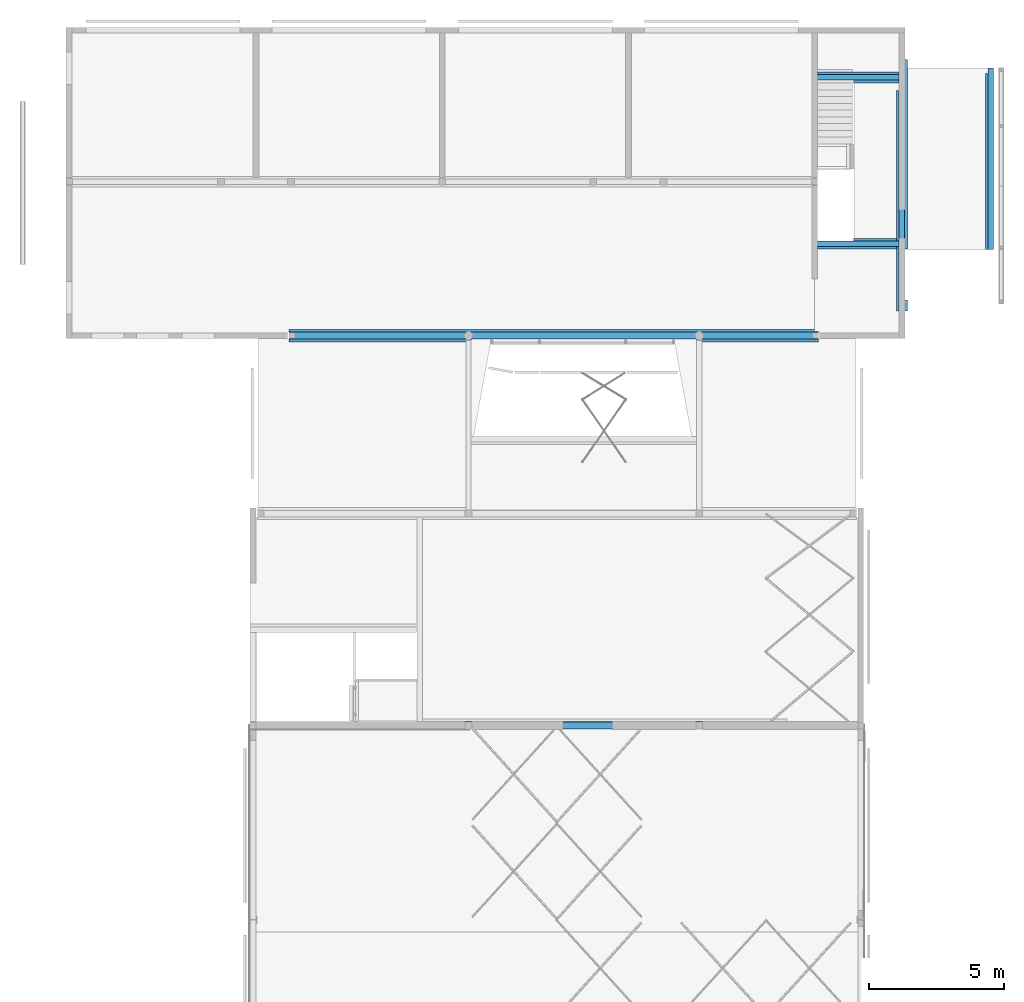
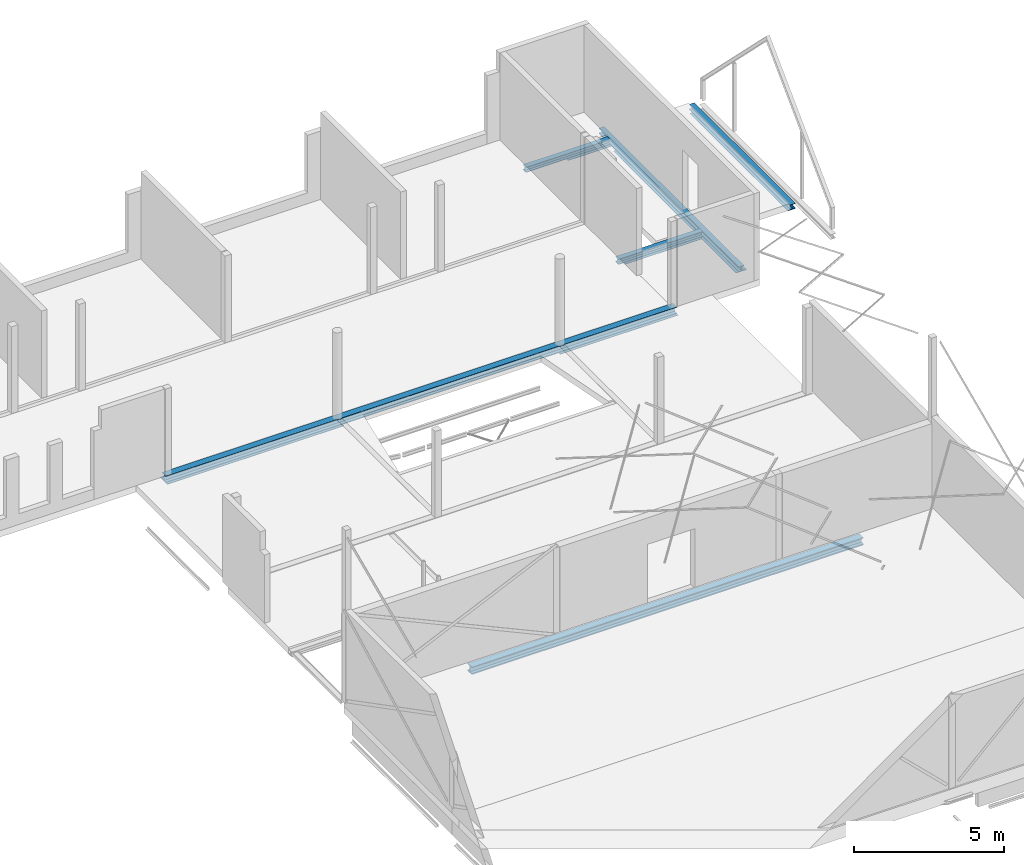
# One storey, part 12 of 14: 6 beams.
"""IFC2X3 building model written with IfcOpenShell, lengths in millimetres."""

from ifc_helpers import new_model, entity, si_unit, converted_unit, derived_unit, direction, frame, origin, place, context, subcontext, project, spatial, faceted_brep, source, transform, mapped, material, type_object, type_shapes, element, save


model = new_model("IFC2X3")

# Units and contexts
model_context = context("Model", 3, precision=0.01, world=origin(), true_north=direction((6.123031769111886e-17, 1.0)))
body_context = subcontext(model_context, "Body", "Model", "MODEL_VIEW")
ifc_project = project(units=[si_unit("LENGTHUNIT", "METRE", prefix="MILLI"), si_unit("AREAUNIT", "SQUARE_METRE", prefix="MILLI"), si_unit("VOLUMEUNIT", "CUBIC_METRE"), converted_unit("PLANEANGLEUNIT", "DEGREE", entity("IfcPlaneAngleMeasure", 0.017453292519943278), si_unit("PLANEANGLEUNIT", "RADIAN"), dimensions=[0, 0, 0, 0, 0, 0, 0]), si_unit("MASSUNIT", "GRAM", prefix="KILO"), derived_unit("MASSDENSITYUNIT", [(si_unit("MASSUNIT", "GRAM", prefix="KILO"), 1), (si_unit("LENGTHUNIT", "METRE"), -3)]), derived_unit("IONCONCENTRATIONUNIT", [(si_unit("MASSUNIT", "GRAM", prefix="KILO"), 1), (si_unit("LENGTHUNIT", "METRE"), -3)]), derived_unit("MOMENTOFINERTIAUNIT", [(si_unit("LENGTHUNIT", "METRE"), 4)]), si_unit("TIMEUNIT", "SECOND"), si_unit("FREQUENCYUNIT", "HERTZ"), si_unit("THERMODYNAMICTEMPERATUREUNIT", "DEGREE_CELSIUS"), derived_unit("THERMALTRANSMITTANCEUNIT", [(si_unit("MASSUNIT", "GRAM", prefix="KILO"), 1), (si_unit("THERMODYNAMICTEMPERATUREUNIT", "KELVIN"), -1), (si_unit("TIMEUNIT", "SECOND"), -3)]), derived_unit("THERMALCONDUCTANCEUNIT", [(si_unit("MASSUNIT", "GRAM", prefix="KILO"), 1), (si_unit("THERMODYNAMICTEMPERATUREUNIT", "KELVIN"), -1), (si_unit("TIMEUNIT", "SECOND"), -3), (si_unit("LENGTHUNIT", "METRE"), 1)]), derived_unit("VOLUMETRICFLOWRATEUNIT", [(si_unit("LENGTHUNIT", "METRE", prefix="DECI"), 3), (si_unit("TIMEUNIT", "SECOND"), -1)]), derived_unit("MASSFLOWRATEUNIT", [(si_unit("MASSUNIT", "GRAM", prefix="KILO"), 1), (si_unit("TIMEUNIT", "SECOND"), -1)]), derived_unit("ROTATIONALFREQUENCYUNIT", [(si_unit("TIMEUNIT", "SECOND"), -1)]), si_unit("ELECTRICCURRENTUNIT", "AMPERE"), si_unit("ELECTRICVOLTAGEUNIT", "VOLT"), si_unit("POWERUNIT", "WATT"), si_unit("FORCEUNIT", "NEWTON", prefix="KILO"), si_unit("ILLUMINANCEUNIT", "LUX"), si_unit("LUMINOUSFLUXUNIT", "LUMEN"), si_unit("LUMINOUSINTENSITYUNIT", "CANDELA"), si_unit("ENERGYUNIT", "JOULE"), derived_unit("USERDEFINED", [(si_unit("MASSUNIT", "GRAM", prefix="KILO"), -1), (si_unit("LENGTHUNIT", "METRE"), -2), (si_unit("TIMEUNIT", "SECOND"), 3), (si_unit("LUMINOUSFLUXUNIT", "LUMEN"), 1)]), derived_unit("USERDEFINED", [(si_unit("MASSUNIT", "GRAM", prefix="KILO"), 1), (si_unit("TIMEUNIT", "SECOND"), -3), (si_unit("LENGTHUNIT", "METRE"), 3), (si_unit("ELECTRICCURRENTUNIT", "AMPERE"), -2)]), derived_unit("SOUNDPOWERUNIT", [(si_unit("MASSUNIT", "GRAM", prefix="KILO"), 1), (si_unit("TIMEUNIT", "SECOND"), -3), (si_unit("LENGTHUNIT", "METRE"), 2)]), derived_unit("SOUNDPRESSUREUNIT", [(si_unit("MASSUNIT", "GRAM", prefix="KILO"), 1), (si_unit("LENGTHUNIT", "METRE"), -1), (si_unit("TIMEUNIT", "SECOND"), -2)]), derived_unit("LINEARVELOCITYUNIT", [(si_unit("LENGTHUNIT", "METRE"), 1), (si_unit("TIMEUNIT", "SECOND"), -1)]), si_unit("PRESSUREUNIT", "PASCAL"), derived_unit("USERDEFINED", [(si_unit("MASSUNIT", "GRAM", prefix="KILO"), 1), (si_unit("LENGTHUNIT", "METRE"), -2), (si_unit("TIMEUNIT", "SECOND"), -2)]), derived_unit("LINEARFORCEUNIT", [(si_unit("MASSUNIT", "GRAM", prefix="KILO"), 1), (si_unit("TIMEUNIT", "SECOND"), -2)]), derived_unit("PLANARFORCEUNIT", [(si_unit("MASSUNIT", "GRAM", prefix="KILO"), 1), (si_unit("LENGTHUNIT", "METRE"), -1), (si_unit("TIMEUNIT", "SECOND"), -2)]), derived_unit("SPECIFICHEATCAPACITYUNIT", [(si_unit("THERMODYNAMICTEMPERATUREUNIT", "KELVIN"), -1), (si_unit("LENGTHUNIT", "METRE"), 2), (si_unit("TIMEUNIT", "SECOND"), -2)]), derived_unit("HEATFLUXDENSITYUNIT", [(si_unit("MASSUNIT", "GRAM", prefix="KILO"), 1), (si_unit("TIMEUNIT", "SECOND"), -3)]), derived_unit("HEATINGVALUEUNIT", [(si_unit("LENGTHUNIT", "METRE"), 2), (si_unit("TIMEUNIT", "SECOND"), -2)]), derived_unit("VAPORPERMEABILITYUNIT", [(si_unit("LENGTHUNIT", "METRE"), -1), (si_unit("TIMEUNIT", "SECOND"), 1)]), derived_unit("DYNAMICVISCOSITYUNIT", [(si_unit("MASSUNIT", "GRAM", prefix="KILO"), 1), (si_unit("TIMEUNIT", "SECOND"), -1), (si_unit("LENGTHUNIT", "METRE"), -1)]), derived_unit("THERMALEXPANSIONCOEFFICIENTUNIT", [(si_unit("THERMODYNAMICTEMPERATUREUNIT", "KELVIN"), -1)]), derived_unit("MODULUSOFELASTICITYUNIT", [(si_unit("MASSUNIT", "GRAM", prefix="KILO"), 1), (si_unit("LENGTHUNIT", "METRE"), -1), (si_unit("TIMEUNIT", "SECOND"), -2)]), derived_unit("ISOTHERMALMOISTURECAPACITYUNIT", [(si_unit("MASSUNIT", "GRAM", prefix="KILO"), -1), (si_unit("LENGTHUNIT", "METRE"), 3)]), derived_unit("MOISTUREDIFFUSIVITYUNIT", [(si_unit("TIMEUNIT", "SECOND"), -1), (si_unit("LENGTHUNIT", "METRE"), 2)]), derived_unit("MASSPERLENGTHUNIT", [(si_unit("MASSUNIT", "GRAM", prefix="KILO"), 1), (si_unit("LENGTHUNIT", "METRE"), -1)]), derived_unit("THERMALRESISTANCEUNIT", [(si_unit("MASSUNIT", "GRAM", prefix="KILO"), -1), (si_unit("TIMEUNIT", "SECOND"), 3), (si_unit("THERMODYNAMICTEMPERATUREUNIT", "KELVIN"), 1)]), derived_unit("ACCELERATIONUNIT", [(si_unit("LENGTHUNIT", "METRE"), 1), (si_unit("TIMEUNIT", "SECOND"), -2)]), derived_unit("ANGULARVELOCITYUNIT", [(si_unit("TIMEUNIT", "SECOND"), -1), (si_unit("PLANEANGLEUNIT", "RADIAN"), 1)]), derived_unit("LINEARSTIFFNESSUNIT", [(si_unit("MASSUNIT", "GRAM", prefix="KILO"), 1), (si_unit("TIMEUNIT", "SECOND"), -2)]), derived_unit("WARPINGCONSTANTUNIT", [(si_unit("LENGTHUNIT", "METRE"), 6)]), derived_unit("LINEARMOMENTUNIT", [(si_unit("MASSUNIT", "GRAM", prefix="KILO"), 1), (si_unit("LENGTHUNIT", "METRE"), 1), (si_unit("TIMEUNIT", "SECOND"), -2)]), derived_unit("TORQUEUNIT", [(si_unit("MASSUNIT", "GRAM", prefix="KILO"), 1), (si_unit("LENGTHUNIT", "METRE"), 2), (si_unit("TIMEUNIT", "SECOND"), -2)])], contexts=[model_context])

# Site, building, storey
site_placement = place(None, origin())
site = spatial("IfcSite", under=ifc_project, at=site_placement, Name="Default", CompositionType="ELEMENT")
building_placement = place(site_placement, origin())
building = spatial("IfcBuilding", under=site, at=building_placement, CompositionType="ELEMENT")
storey_placement = place(building_placement, frame((0.0, 0.0, 3730.0)))
storey = spatial("IfcBuildingStorey", under=building, at=storey_placement, Name="V1 1e verd. (bk ruwe vloer)", CompositionType="ELEMENT", Elevation=3729.9999999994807)

# Beams
ifc_material = material(Name="Metal - Steel - S355 JR (standaard-geintegreerde liggers)")
beam_type_1 = type_object("IfcBeamType", Name="btl_staal - SFB:SFB HEM260+370x15", PredefinedType="BEAM", material=ifc_material)
shared_shape_1 = source(origin(), body_context, "Body", "Brep", [
    faceted_brep([(0.0, 268.0, 305.0), (0.0, 268.0, 272.4999999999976), (0.0, 143.0, 272.4999999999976), (0.0, 143.0, 47.49999999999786), (0.0, 268.0, 47.49999999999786), (0.0, 268.0, 15.0), (0.0, 0.0, 15.0), (0.0, 0.0, 47.49999999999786), (0.0, 125.0, 47.49999999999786), (0.0, 125.0, 272.4999999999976), (0.0, 0.0, 272.4999999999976), (0.0, 0.0, 305.0), (15050.12349832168, 268.0, 305.0), (15050.12349832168, 0.0, 305.0), (15050.12349832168, 0.0, 272.4999999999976), (15050.12349832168, 125.0, 272.4999999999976), (15050.12349832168, 125.0, 47.49999999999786), (15050.12349832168, 0.0, 47.49999999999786), (15050.12349832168, 0.0, 15.0), (15050.12349832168, 268.0, 15.0), (15050.12349832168, 268.0, 47.49999999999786), (15050.12349832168, 143.0, 47.49999999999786), (15050.12349832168, 143.0, 272.4999999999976), (15050.12349832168, 268.0, 272.4999999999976)], [[[0, 1, 2, 3, 4, 5, 6, 7, 8, 9, 10, 11]], [[12, 13, 14, 15, 16, 17, 18, 19, 20, 21, 22, 23]], [[1, 0, 12, 23]], [[2, 1, 23, 22]], [[3, 2, 22, 21]], [[4, 3, 21, 20]], [[5, 4, 20, 19]], [[6, 5, 19, 18]], [[7, 6, 18, 17]], [[8, 7, 17, 16]], [[9, 8, 16, 15]], [[10, 9, 15, 14]], [[11, 10, 14, 13]], [[0, 11, 13, 12]]]),
    faceted_brep([(0.0, 0.0, 0.0), (0.0, 0.0, 15.0), (0.0, 268.0, 15.0), (0.0, 268.0, 0.0), (15050.12349832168, 0.0, 15.0), (15050.12349832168, 0.0, 0.0), (15050.12349832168, 370.0, 0.0), (15050.12349832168, 370.0, 15.0), (1536.4626336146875, 370.0, 15.0), (1536.4626336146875, 268.0, 15.0), (1536.4626336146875, 370.0, 0.0), (1536.4626336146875, 268.0, 0.0)], [[[0, 1, 2, 3]], [[4, 5, 6, 7]], [[4, 7, 8, 9, 2, 1]], [[7, 6, 10, 8]], [[6, 5, 0, 3, 11, 10]], [[1, 0, 5, 4]], [[11, 9, 8, 10]], [[9, 11, 3, 2]]]),
])
type_shapes(beam_type_1, [shared_shape_1])
beam_1_placement = place(storey_placement, frame((11449.863108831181, 17360.605013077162, -497.4999999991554)))
element("IfcBeam", 1, at=beam_1_placement, inside=storey, type_object=beam_type_1, material=ifc_material, Name="btl_staal - SFB:SFB HEM260+370x15", ObjectType="btl_staal - SFB:SFB HEM260+370x15", context=body_context, shape_type="MappedRepresentation", body=[
    mapped(shared_shape_1, transform((0.0, 0.0, 0.0), scale=1.0)),
])
beam_type_2 = type_object("IfcBeamType", Name="btl_staal - SFB:SFB HEB260+460x15", PredefinedType="BEAM", material=ifc_material)
shared_shape_2 = source(origin(), body_context, "Body", "Brep", [
    faceted_brep([(0.0, 360.0, 275.0), (0.0, 360.0, 257.4999999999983), (0.0, 235.0, 257.4999999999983), (0.0, 235.0, 32.499999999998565), (0.0, 360.0, 32.499999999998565), (0.0, 360.0, 15.0), (0.0, 100.0, 15.0), (0.0, 100.0, 32.499999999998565), (0.0, 225.0, 32.499999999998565), (0.0, 225.0, 257.4999999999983), (0.0, 100.0, 257.4999999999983), (0.0, 100.0, 275.0), (19632.329529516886, 360.0, 275.0), (19632.329529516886, 100.0, 275.0), (19632.329529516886, 100.0, 257.4999999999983), (19632.329529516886, 225.0, 257.4999999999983), (19632.329529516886, 225.0, 32.499999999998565), (19632.329529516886, 100.0, 32.499999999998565), (19632.329529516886, 100.0, 15.0), (19632.329529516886, 360.0, 15.0), (19632.329529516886, 360.0, 32.499999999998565), (19632.329529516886, 235.0, 32.499999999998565), (19632.329529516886, 235.0, 257.4999999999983), (19632.329529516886, 360.0, 257.4999999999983)], [[[0, 1, 2, 3, 4, 5, 6, 7, 8, 9, 10, 11]], [[12, 13, 14, 15, 16, 17, 18, 19, 20, 21, 22, 23]], [[1, 0, 12, 23]], [[2, 1, 23, 22]], [[3, 2, 22, 21]], [[4, 3, 21, 20]], [[5, 4, 20, 19]], [[6, 5, 19, 18]], [[7, 6, 18, 17]], [[8, 7, 17, 16]], [[9, 8, 16, 15]], [[10, 9, 15, 14]], [[11, 10, 14, 13]], [[0, 11, 13, 12]]]),
    faceted_brep([(0.0, 0.0, 15.0), (0.0, 460.0, 15.0), (0.0, 460.0, 0.0), (0.0, 0.0, 0.0), (19632.329529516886, 0.0, 15.0), (19632.329529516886, 0.0, 0.0), (19632.329529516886, 460.0, 0.0), (19632.329529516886, 460.0, 15.0), (6779.438597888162, 0.0, 15.0), (6779.438597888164, 100.0, 15.0), (15089.430283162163, 100.0, 15.0), (15089.430283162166, 0.0, 15.0), (15089.430283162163, 0.0, 0.0), (15089.430283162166, 100.0, 0.0), (6779.438597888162, 100.0, 0.0), (6779.438597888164, 0.0, 0.0)], [[[0, 1, 2, 3]], [[4, 5, 6, 7]], [[1, 0, 8, 9, 10, 11, 4, 7]], [[2, 1, 7, 6]], [[3, 2, 6, 5, 12, 13, 14, 15]], [[0, 3, 15, 8]], [[9, 14, 13, 10]], [[10, 13, 12, 11]], [[14, 9, 8, 15]], [[5, 4, 11, 12]]]),
])
type_shapes(beam_type_2, [shared_shape_2])
beam_2_placement = place(storey_placement, frame((8040.556323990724, 31707.573205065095, -275.0)))
element("IfcBeam", 2, at=beam_2_placement, inside=storey, type_object=beam_type_2, material=ifc_material, Name="btl_staal - SFB:SFB HEB260+460x15", ObjectType="btl_staal - SFB:SFB HEB260+460x15", context=body_context, shape_type="MappedRepresentation", body=[
    mapped(shared_shape_2, transform((0.0, 0.0, 0.0), scale=1.0)),
])
beam_type_3 = type_object("IfcBeamType", Name="btl_staal - SFB:SFB HEB200+400x15 (S355)", PredefinedType="BEAM", material=ifc_material)
shared_shape_3 = source(origin(), body_context, "Body", "Brep", [
    faceted_brep([(0.0, 100.0, 215.0), (0.0, 300.0, 215.0), (0.0, 300.0, 200.0), (0.0, 204.50000000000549, 200.0), (0.0, 204.50000000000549, 30.0), (0.0, 300.0, 30.0), (0.0, 300.0, 15.0), (0.0, 100.0, 15.0), (0.0, 100.0, 30.0), (0.0, 195.50000000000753, 30.0), (0.0, 195.50000000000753, 200.0), (0.0, 100.0, 200.0), (3238.9976748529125, 100.0, 215.0), (3238.9976748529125, 100.0, 200.0), (3238.9976748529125, 195.50000000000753, 200.0), (3238.9976748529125, 195.50000000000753, 30.0), (3238.9976748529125, 100.0, 30.0), (3238.9976748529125, 100.0, 15.0), (3238.9976748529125, 300.0, 15.0), (3238.9976748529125, 300.0, 30.0), (3238.9976748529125, 204.50000000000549, 30.0), (3238.9976748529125, 204.50000000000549, 200.0), (3238.9976748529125, 300.0, 200.0), (3238.9976748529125, 300.0, 215.0)], [[[0, 1, 2, 3, 4, 5, 6, 7, 8, 9, 10, 11]], [[12, 13, 14, 15, 16, 17, 18, 19, 20, 21, 22, 23]], [[11, 13, 12, 0]], [[10, 14, 13, 11]], [[9, 15, 14, 10]], [[8, 16, 15, 9]], [[7, 17, 16, 8]], [[6, 18, 17, 7]], [[5, 19, 18, 6]], [[4, 20, 19, 5]], [[3, 21, 20, 4]], [[2, 22, 21, 3]], [[1, 23, 22, 2]], [[0, 12, 23, 1]]]),
    faceted_brep([(0.0, 100.0, 0.0), (0.0, 100.0, 15.0), (0.0, 300.0, 15.0), (0.0, 300.0, 0.0), (3238.9976748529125, 400.0, 0.0), (3238.9976748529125, 400.0, 15.0), (3238.9976748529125, 0.0, 15.0), (3238.9976748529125, 0.0, 0.0), (214.0, 400.0, 15.0), (214.0, 300.0, 15.0), (1550.539889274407, 100.0, 15.0), (1550.539889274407, 0.0, 15.0), (1550.539889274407, 0.0, 0.0), (1550.539889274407, 100.0, 0.0), (214.0, 300.0, 0.0), (214.0, 400.0, 0.0)], [[[0, 1, 2, 3]], [[4, 5, 6, 7]], [[6, 5, 8, 9, 2, 1, 10, 11]], [[7, 6, 11, 12]], [[4, 7, 12, 13, 0, 3, 14, 15]], [[5, 4, 15, 8]], [[11, 10, 13, 12]], [[1, 0, 13, 10]], [[14, 9, 8, 15]], [[9, 14, 3, 2]]]),
])
type_shapes(beam_type_3, [shared_shape_3])
beam_3_placement = place(storey_placement, frame((27417.979520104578, 41307.317059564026, -275.0)))
element("IfcBeam", 3, at=beam_3_placement, inside=storey, type_object=beam_type_3, material=ifc_material, Name="btl_staal - SFB:SFB HEB200+400x15 (S355)", ObjectType="btl_staal - SFB:SFB HEB200+400x15 (S355)", context=body_context, shape_type="MappedRepresentation", body=[
    mapped(shared_shape_3, transform((0.0, 0.0, 0.0), scale=1.0)),
])
beam_type_4 = type_object("IfcBeamType", Name="btl_staal - SFB:SFB HEB200+400x15 (S355)", PredefinedType="BEAM", material=ifc_material)
shared_shape_4 = source(origin(), body_context, "Body", "Brep", [
    faceted_brep([(0.0, 300.0, 15.0), (0.0, 300.0, 0.0), (0.0, 100.0, 0.0), (0.0, 100.0, 15.0), (3238.997674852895, 300.0, 0.0), (3238.997674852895, 300.0, 15.0), (3238.997674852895, 100.0, 15.0), (3238.997674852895, 100.0, 0.0), (1550.53988927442, 400.0, 15.0), (1550.53988927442, 300.0, 15.0), (214.0, 100.0, 15.0), (214.0, 0.0, 15.0), (3138.997674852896, 0.0, 15.0), (3138.9976748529, 100.0, 15.0), (3138.997674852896, 300.0, 15.0), (3138.997674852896, 400.0, 15.0), (1550.53988927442, 400.0, 0.0), (3138.997674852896, 400.0, 0.0), (1550.53988927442, 300.0, 0.0), (3138.997674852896, 300.0, 0.0), (3138.997674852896, 100.0, 0.0), (3138.997674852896, 0.0, 0.0), (214.0, 0.0, 0.0), (214.0, 100.0, 0.0)], [[[0, 1, 2, 3]], [[4, 5, 6, 7]], [[8, 9, 0, 3, 10, 11, 12, 13, 6, 5, 14, 15]], [[16, 8, 15, 17]], [[18, 16, 17, 19, 4, 7, 20, 21, 22, 23, 2, 1]], [[11, 22, 21, 12]], [[18, 9, 8, 16]], [[9, 18, 1, 0]], [[10, 23, 22, 11]], [[23, 10, 3, 2]], [[19, 14, 5, 4]], [[14, 19, 17, 15]], [[13, 20, 7, 6]], [[20, 13, 12, 21]]]),
    faceted_brep([(0.0, 300.0, 215.0), (0.0, 300.0, 200.0), (0.0, 204.50000000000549, 200.0), (0.0, 204.50000000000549, 30.0), (0.0, 300.0, 30.0), (0.0, 300.0, 15.0), (0.0, 100.0, 15.0), (0.0, 100.0, 30.0), (0.0, 195.50000000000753, 30.0), (0.0, 195.50000000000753, 200.0), (0.0, 100.0, 200.0), (0.0, 100.0, 215.0), (3238.997674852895, 300.0, 215.0), (3238.997674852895, 100.0, 215.0), (3238.997674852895, 100.0, 200.0), (3238.997674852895, 195.49999999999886, 200.0), (3238.997674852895, 195.49999999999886, 30.0), (3238.997674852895, 100.0, 30.0), (3238.997674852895, 100.0, 15.0), (3238.997674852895, 300.0, 15.0), (3238.997674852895, 300.0, 30.0), (3238.997674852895, 204.49999999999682, 30.0), (3238.997674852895, 204.49999999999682, 200.0), (3238.997674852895, 300.0, 200.0)], [[[0, 1, 2, 3, 4, 5, 6, 7, 8, 9, 10, 11]], [[12, 13, 14, 15, 16, 17, 18, 19, 20, 21, 22, 23]], [[1, 0, 12, 23]], [[2, 1, 23, 22]], [[3, 2, 22, 21]], [[4, 3, 21, 20]], [[5, 4, 20, 19]], [[6, 5, 19, 18]], [[7, 6, 18, 17]], [[8, 7, 17, 16]], [[9, 8, 16, 15]], [[10, 9, 15, 14]], [[11, 10, 14, 13]], [[0, 11, 13, 12]]]),
])
type_shapes(beam_type_4, [shared_shape_4])
beam_4_placement = place(storey_placement, frame((27417.979520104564, 35144.57320506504, -275.0)))
element("IfcBeam", 4, at=beam_4_placement, inside=storey, type_object=beam_type_4, material=ifc_material, Name="btl_staal - SFB:SFB HEB200+400x15 (S355)", ObjectType="btl_staal - SFB:SFB HEB200+400x15 (S355)", context=body_context, shape_type="MappedRepresentation", body=[
    mapped(shared_shape_4, transform((0.0, 0.0, 0.0), scale=1.0)),
])
beam_type_5 = type_object("IfcBeamType", Name="btl_staal - SFB:SFB HEB200+400x15 (S355)", PredefinedType="BEAM", material=ifc_material)
shared_shape_5 = source(origin(), body_context, "Body", "Brep", [
    faceted_brep([(400.0, 9302.418737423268, 15.0), (400.0, 9302.418737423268, 0.0), (93.0, 9302.418737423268, 0.0), (93.0, 9302.418737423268, 15.0), (400.0, 0.0, 0.0), (400.0, 0.0, 15.0), (0.0, 0.0, 15.0), (0.0, 0.0, 0.0), (400.0, 407.0, 15.0), (300.0, 407.0, 15.0), (300.0, 2298.1301683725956, 15.0), (400.0, 2298.130168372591, 15.0), (93.0, 8161.886718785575, 15.0), (0.0, 8161.886718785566, 15.0), (0.0, 8161.886718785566, 0.0), (93.0, 8161.886718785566, 0.0), (400.0, 2298.1301683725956, 0.0), (300.0, 2298.130168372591, 0.0), (300.0, 407.0, 0.0), (400.0, 407.0, 0.0)], [[[0, 1, 2, 3]], [[4, 5, 6, 7]], [[6, 5, 8, 9, 10, 11, 0, 3, 12, 13]], [[7, 6, 13, 14]], [[4, 7, 14, 15, 2, 1, 16, 17, 18, 19]], [[1, 0, 11, 16]], [[15, 12, 3, 2]], [[12, 15, 14, 13]], [[17, 10, 9, 18]], [[18, 9, 8, 19]], [[10, 17, 16, 11]], [[5, 4, 19, 8]]]),
    faceted_brep([(100.0, 9302.418737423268, 215.0), (300.0, 9302.418737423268, 215.0), (300.0, 9302.418737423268, 200.0), (204.5000000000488, 9302.418737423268, 200.0), (204.5000000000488, 9302.418737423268, 30.0), (300.0, 9302.418737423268, 30.0), (300.0, 9302.418737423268, 15.0), (100.0, 9302.418737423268, 15.0), (100.0, 9302.418737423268, 30.0), (195.50000000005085, 9302.418737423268, 30.0), (195.50000000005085, 9302.418737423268, 200.0), (100.0, 9302.418737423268, 200.0), (100.0, 0.0, 215.0), (100.0, 0.0, 200.0), (195.49999999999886, 0.0, 200.0), (195.49999999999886, 0.0, 30.0), (100.0, 0.0, 30.0), (100.0, 0.0, 15.0), (300.0, 0.0, 15.0), (300.0, 0.0, 30.0), (204.49999999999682, 0.0, 30.0), (204.49999999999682, 0.0, 200.0), (300.0, 0.0, 200.0), (300.0, 0.0, 215.0)], [[[0, 1, 2, 3, 4, 5, 6, 7, 8, 9, 10, 11]], [[12, 13, 14, 15, 16, 17, 18, 19, 20, 21, 22, 23]], [[11, 13, 12, 0]], [[10, 14, 13, 11]], [[9, 15, 14, 10]], [[8, 16, 15, 9]], [[7, 17, 16, 8]], [[6, 18, 17, 7]], [[5, 19, 18, 6]], [[4, 20, 19, 5]], [[3, 21, 20, 4]], [[2, 22, 21, 3]], [[1, 23, 22, 2]], [[0, 12, 23, 1]]]),
])
type_shapes(beam_type_5, [shared_shape_5])
beam_5_placement = place(storey_placement, frame((30556.977194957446, 32859.414788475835, -275.0)))
element("IfcBeam", 5, at=beam_5_placement, inside=storey, type_object=beam_type_5, material=ifc_material, Name="btl_staal - SFB:SFB HEB200+400x15 (S355)", ObjectType="btl_staal - SFB:SFB HEB200+400x15 (S355)", context=body_context, shape_type="MappedRepresentation", body=[
    mapped(shared_shape_5, transform((0.0, 0.0, 0.0), scale=1.0)),
])
beam_type_6 = type_object("IfcBeamType", Name="btl_staal - SFB:SFB HEB200+400x15 (S355)", PredefinedType="BEAM", material=ifc_material)
shared_shape_6 = source(origin(), body_context, "Body", "Brep", [
    faceted_brep([(100.0, 6738.9860086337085, 215.0), (300.0, 6738.9860086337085, 215.0), (300.0, 6738.9860086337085, 200.0), (204.5000000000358, 6738.9860086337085, 200.0), (204.5000000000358, 6738.9860086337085, 30.0), (300.0, 6738.9860086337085, 30.0), (300.0, 6738.9860086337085, 15.0), (100.0, 6738.9860086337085, 15.0), (100.0, 6738.9860086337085, 30.0), (195.50000000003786, 6738.9860086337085, 30.0), (195.50000000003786, 6738.9860086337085, 200.0), (100.0, 6738.9860086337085, 200.0), (100.0, 0.0, 215.0), (100.0, 0.0, 200.0), (195.5000000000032, 0.0, 200.0), (195.5000000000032, 0.0, 30.0), (100.0, 0.0, 30.0), (100.0, 0.0, 15.0), (300.0, 0.0, 15.0), (300.0, 0.0, 30.0), (204.50000000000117, 0.0, 30.0), (204.50000000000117, 0.0, 200.0), (300.0, 0.0, 200.0), (300.0, 0.0, 215.0)], [[[0, 1, 2, 3, 4, 5, 6, 7, 8, 9, 10, 11]], [[12, 13, 14, 15, 16, 17, 18, 19, 20, 21, 22, 23]], [[11, 13, 12, 0]], [[10, 14, 13, 11]], [[9, 15, 14, 10]], [[8, 16, 15, 9]], [[7, 17, 16, 8]], [[6, 18, 17, 7]], [[5, 19, 18, 6]], [[4, 20, 19, 5]], [[3, 21, 20, 4]], [[2, 22, 21, 3]], [[1, 23, 22, 2]], [[0, 12, 23, 1]]]),
    faceted_brep([(100.0, 6738.9860086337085, 0.0), (100.0, 6738.9860086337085, 15.0), (300.0, 6738.9860086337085, 15.0), (300.0, 6738.9860086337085, 0.0), (0.0, 0.0, 15.0), (0.0, 0.0, 0.0), (300.0, 0.0, 0.0), (300.0, 0.0, 15.0), (100.0, 6524.986008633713, 15.0), (0.0, 6524.986008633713, 15.0), (0.0, 6524.986008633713, 0.0), (100.0, 6524.986008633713, 0.0)], [[[0, 1, 2, 3]], [[4, 5, 6, 7]], [[7, 2, 1, 8, 9, 4]], [[5, 4, 9, 10]], [[3, 6, 5, 10, 11, 0]], [[7, 6, 3, 2]], [[11, 8, 1, 0]], [[8, 11, 10, 9]]]),
])
type_shapes(beam_type_6, [shared_shape_6])
beam_6_placement = place(storey_placement, frame((33849.97719495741, 35122.847517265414, -275.0)))
element("IfcBeam", 6, at=beam_6_placement, inside=storey, type_object=beam_type_6, material=ifc_material, Name="btl_staal - SFB:SFB HEB200+400x15 (S355)", ObjectType="btl_staal - SFB:SFB HEB200+400x15 (S355)", context=body_context, shape_type="MappedRepresentation", body=[
    mapped(shared_shape_6, transform((0.0, 0.0, 0.0), scale=1.0)),
])

save(model, "model.ifc")
